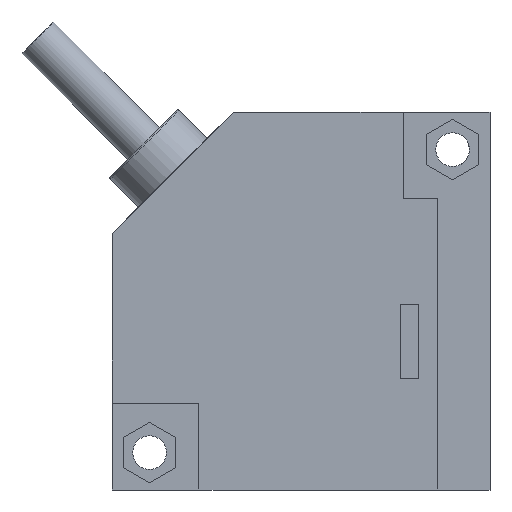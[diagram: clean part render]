
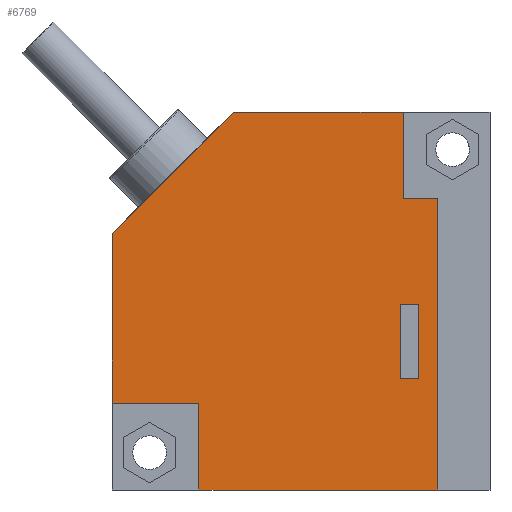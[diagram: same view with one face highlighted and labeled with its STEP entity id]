
A CAD part, front view. The second image highlights one B-rep face of the part: STEP entity #6769.
In plain terms, the highlighted planar face has unit normal (0, -1, 0) as drawn and (0, 1, 0) by its records, which use the part's own axes.
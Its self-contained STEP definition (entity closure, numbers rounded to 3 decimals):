
#6526=DIRECTION('',(0.707,0.,-0.707));
#6527=VECTOR('',#6526,22.91);
#6528=CARTESIAN_POINT('',(-25.25,9.05,-9.05));
#6529=LINE('',#6528,#6527);
#6530=DIRECTION('',(0.,0.,-1.));
#6531=VECTOR('',#6530,10.);
#6532=CARTESIAN_POINT('',(15.75,9.05,10.4));
#6533=LINE('',#6532,#6531);
#6534=DIRECTION('',(-1.,0.,0.));
#6535=VECTOR('',#6534,2.5);
#6536=CARTESIAN_POINT('',(15.75,9.05,0.4));
#6537=LINE('',#6536,#6535);
#6538=DIRECTION('',(0.,0.,1.));
#6539=VECTOR('',#6538,10.);
#6540=CARTESIAN_POINT('',(13.25,9.05,0.4));
#6541=LINE('',#6540,#6539);
#6542=DIRECTION('',(1.,0.,0.));
#6543=VECTOR('',#6542,2.5);
#6544=CARTESIAN_POINT('',(13.25,9.05,10.4));
#6545=LINE('',#6544,#6543);
#6546=DIRECTION('',(1.,0.,0.));
#6547=VECTOR('',#6546,11.6);
#6548=CARTESIAN_POINT('',(-25.25,9.05,13.65));
#6549=LINE('',#6548,#6547);
#6554=DIRECTION('',(0.,0.,1.));
#6555=VECTOR('',#6554,11.6);
#6556=CARTESIAN_POINT('',(-13.65,9.05,13.65));
#6557=LINE('',#6556,#6555);
#6562=DIRECTION('',(1.,0.,0.));
#6563=VECTOR('',#6562,31.9);
#6564=CARTESIAN_POINT('',(-13.65,9.05,25.25));
#6565=LINE('',#6564,#6563);
#6570=DIRECTION('',(0.,0.,-1.));
#6571=VECTOR('',#6570,38.9);
#6572=CARTESIAN_POINT('',(18.25,9.05,25.25));
#6573=LINE('',#6572,#6571);
#6578=DIRECTION('',(-1.,0.,0.));
#6579=VECTOR('',#6578,4.6);
#6580=CARTESIAN_POINT('',(18.25,9.05,-13.65));
#6581=LINE('',#6580,#6579);
#6586=DIRECTION('',(0.,0.,-1.));
#6587=VECTOR('',#6586,11.6);
#6588=CARTESIAN_POINT('',(13.65,9.05,-13.65));
#6589=LINE('',#6588,#6587);
#6594=DIRECTION('',(-1.,0.,0.));
#6595=VECTOR('',#6594,22.7);
#6596=CARTESIAN_POINT('',(13.65,9.05,-25.25));
#6597=LINE('',#6596,#6595);
#6606=DIRECTION('',(0.,0.,1.));
#6607=VECTOR('',#6606,22.7);
#6608=CARTESIAN_POINT('',(-25.25,9.05,-9.05));
#6609=LINE('',#6608,#6607);
#6682=CARTESIAN_POINT('',(-25.25,9.05,13.65));
#6683=CARTESIAN_POINT('',(-13.65,9.05,13.65));
#6684=VERTEX_POINT('',#6682);
#6685=VERTEX_POINT('',#6683);
#6686=CARTESIAN_POINT('',(-25.25,9.05,-9.05));
#6687=VERTEX_POINT('',#6686);
#6688=CARTESIAN_POINT('',(-9.05,9.05,-25.25));
#6689=VERTEX_POINT('',#6688);
#6690=CARTESIAN_POINT('',(13.65,9.05,-25.25));
#6691=VERTEX_POINT('',#6690);
#6692=CARTESIAN_POINT('',(13.65,9.05,-13.65));
#6693=VERTEX_POINT('',#6692);
#6694=CARTESIAN_POINT('',(18.25,9.05,-13.65));
#6695=VERTEX_POINT('',#6694);
#6696=CARTESIAN_POINT('',(18.25,9.05,25.25));
#6697=VERTEX_POINT('',#6696);
#6698=CARTESIAN_POINT('',(-13.65,9.05,25.25));
#6699=VERTEX_POINT('',#6698);
#6700=CARTESIAN_POINT('',(15.75,9.05,10.4));
#6701=CARTESIAN_POINT('',(15.75,9.05,0.4));
#6702=VERTEX_POINT('',#6700);
#6703=VERTEX_POINT('',#6701);
#6704=CARTESIAN_POINT('',(13.25,9.05,0.4));
#6705=VERTEX_POINT('',#6704);
#6706=CARTESIAN_POINT('',(13.25,9.05,10.4));
#6707=VERTEX_POINT('',#6706);
#6734=CARTESIAN_POINT('',(0.,9.05,0.));
#6735=DIRECTION('',(0.,-1.,0.));
#6736=DIRECTION('',(1.,0.,0.));
#6737=AXIS2_PLACEMENT_3D('',#6734,#6735,#6736);
#6738=PLANE('',#6737);
#6740=ORIENTED_EDGE('',*,*,#6739,.F.);
#6742=ORIENTED_EDGE('',*,*,#6741,.F.);
#6744=ORIENTED_EDGE('',*,*,#6743,.T.);
#6746=ORIENTED_EDGE('',*,*,#6745,.F.);
#6748=ORIENTED_EDGE('',*,*,#6747,.F.);
#6750=ORIENTED_EDGE('',*,*,#6749,.F.);
#6752=ORIENTED_EDGE('',*,*,#6751,.F.);
#6754=ORIENTED_EDGE('',*,*,#6753,.F.);
#6756=ORIENTED_EDGE('',*,*,#6755,.F.);
#6757=EDGE_LOOP('',(#6740,#6742,#6744,#6746,#6748,#6750,#6752,#6754,#6756));
#6758=FACE_OUTER_BOUND('',#6757,.F.);
#6760=ORIENTED_EDGE('',*,*,#6759,.T.);
#6762=ORIENTED_EDGE('',*,*,#6761,.T.);
#6764=ORIENTED_EDGE('',*,*,#6763,.T.);
#6766=ORIENTED_EDGE('',*,*,#6765,.T.);
#6767=EDGE_LOOP('',(#6760,#6762,#6764,#6766));
#6768=FACE_BOUND('',#6767,.F.);
#6769=ADVANCED_FACE('',(#6758,#6768),#6738,.F.);
#6739=EDGE_CURVE('',#6684,#6685,#6549,.T.);
#6741=EDGE_CURVE('',#6687,#6684,#6609,.T.);
#6743=EDGE_CURVE('',#6687,#6689,#6529,.T.);
#6745=EDGE_CURVE('',#6691,#6689,#6597,.T.);
#6747=EDGE_CURVE('',#6693,#6691,#6589,.T.);
#6749=EDGE_CURVE('',#6695,#6693,#6581,.T.);
#6751=EDGE_CURVE('',#6697,#6695,#6573,.T.);
#6753=EDGE_CURVE('',#6699,#6697,#6565,.T.);
#6755=EDGE_CURVE('',#6685,#6699,#6557,.T.);
#6759=EDGE_CURVE('',#6702,#6703,#6533,.T.);
#6761=EDGE_CURVE('',#6703,#6705,#6537,.T.);
#6763=EDGE_CURVE('',#6705,#6707,#6541,.T.);
#6765=EDGE_CURVE('',#6707,#6702,#6545,.T.);
